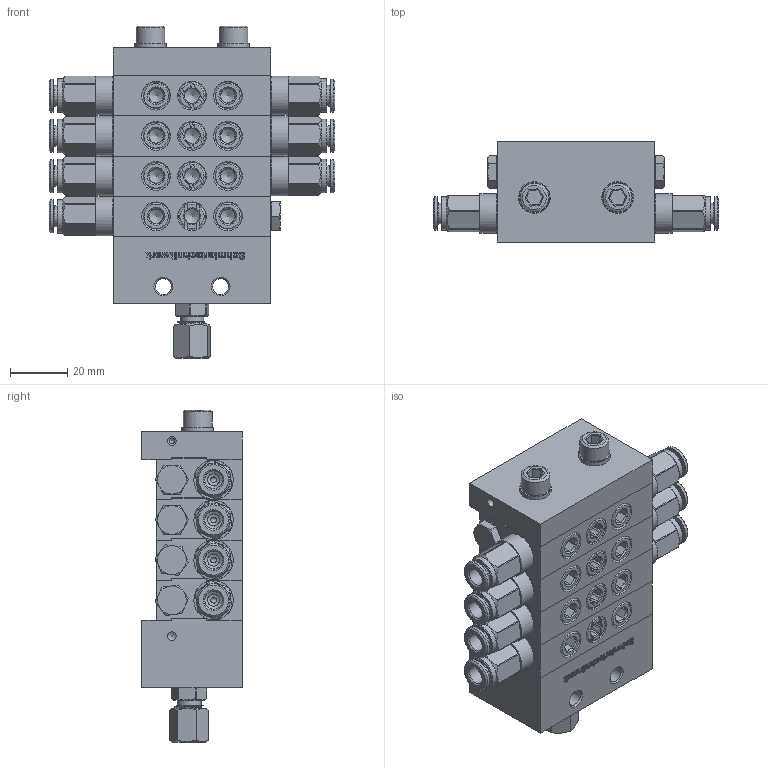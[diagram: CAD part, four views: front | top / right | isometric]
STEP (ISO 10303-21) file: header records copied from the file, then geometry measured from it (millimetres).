
FILE_DESCRIPTION (( 'STEP AP214' ), '1' );
FILE_NAME ('STW_XV_0143_07_0502_07_Auslässe.STEP', '2026-02-04T10:55:12', ( '' ), ( '' ), 'SwSTEP 2.0', 'SolidWorks 2022', '' );
FILE_SCHEMA (( 'AUTOMOTIVE_DESIGN' ));
Length unit declared in the file: millimetre
Products named in the file (19): U_Scheibe_6; M6X65_DIN_912; STW_XV_0143_07_0502_07_Auslässe; 991214010601; RIVOLUZIONE_0_2; STW_XV_MITTEL_1; DR6-C_HDX_25.07.16_1; XV_Mittelelement; OR 7.66X1.78_1; STW_XV_END; Verschlussstopfen_1_8; STW_XV_Kolbenanschlag; H200139_HDS01_6_M10X1_08.05.17; 991214010601_Schneidring; Verschlussstopfen_1_8_2; STW_XV_Verbindungsstopen; STW_XV_ENGANG; 991214010601_Mutter; 991214010601_Koerper
Assembly tree (46 placements, depth 3):
  STW_XV_0143_07_0502_07_Auslässe
    STW_XV_ENGANG
    STW_XV_MITTEL_1  x3
    STW_XV_END
    Verschlussstopfen_1_8_2  x6
    STW_XV_Kolbenanschlag  x6
    STW_XV_Verbindungsstopen  x3
    M6X65_DIN_912  x2
    U_Scheibe_6  x2
    991214010601
      991214010601_Koerper
      991214010601_Schneidring
      991214010601_Mutter
    XV_Mittelelement
      STW_XV_MITTEL_1
      STW_XV_Kolbenanschlag  x2
      Verschlussstopfen_1_8_2  x2
      STW_XV_Verbindungsstopen
    H200139_HDS01_6_M10X1_08.05.17  x7
      OR 7.66X1.78_1
      DR6-C_HDX_25.07.16_1
      RIVOLUZIONE_0_2
    Verschlussstopfen_1_8
Bounding box: 99.6 x 35 x 115.68 mm (x, y, z)
Volume: 162869.3 mm3; surface area: 89488.3 mm2
Topology: 55 solids, 55 shells, 1910 faces, 4936 edges, 3178 vertices
Faces by surface type: plane 944, cylinder 454, cone 353, bspline 151, torus 8
Full cylindrical faces by diameter (mm): 2 x113, 3 x11, 4.2 x7, 4.5 x1, 5 x47, 5.5 x2, 5.9 x2, 6 x3, 6.2 x18, 6.3 x7, 6.4 x2, 6.5 x8, 7 x8, 7.2 x7, 7.4 x1, 7.67 x1, 8 x9, 8.3 x1, 8.4 x4, 8.5 x7, 8.6 x20, 9 x10, 9.7 x9, 9.73 x4, 9.8 x7, 9.9 x7, 10 x24, 10.3 x7, 11 x2, 11.5 x7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
Entity records: 45568 total; most frequent: CARTESIAN_POINT 22438, ORIENTED_EDGE 3064, DIRECTION 2695, EDGE_CURVE 1532, VERTEX_POINT 1095, EDGE_LOOP 1035, AXIS2_PLACEMENT_3D 965, FACE_OUTER_BOUND 832
